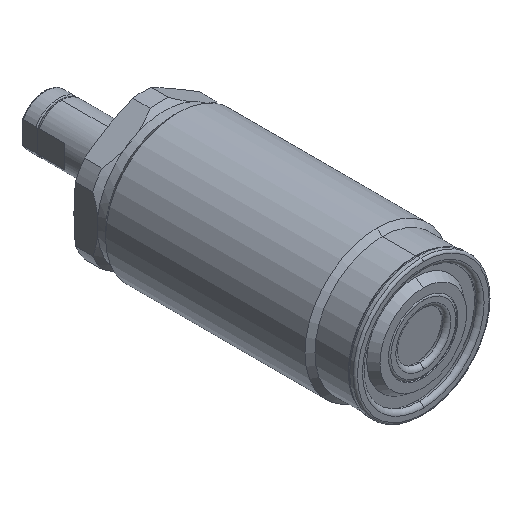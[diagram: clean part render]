
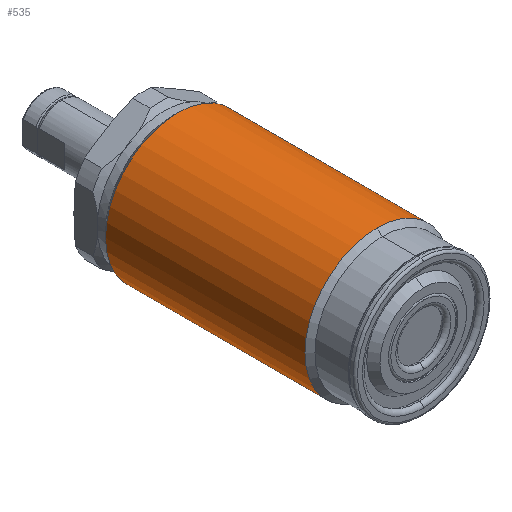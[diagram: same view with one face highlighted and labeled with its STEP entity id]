
A CAD part, isometric view. The second image highlights one B-rep face of the part: STEP entity #535.
In plain terms, the highlighted cylindrical face has radius 13 mm (diameter 26 mm), a full revolution.
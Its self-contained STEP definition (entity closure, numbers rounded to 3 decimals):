
#230=FACE_BOUND('',#819,.T.);
#231=FACE_BOUND('',#820,.T.);
#277=CYLINDRICAL_SURFACE('',#2248,13.);
#358=LINE('',#3629,#432);
#359=LINE('',#3634,#433);
#432=VECTOR('',#2799,1.);
#433=VECTOR('',#2802,1.);
#535=ADVANCED_FACE('',(#230,#231),#277,.T.);
#819=EDGE_LOOP('',(#1218));
#820=EDGE_LOOP('',(#1219,#1220,#1221,#1222,#1223,#1224));
#1218=ORIENTED_EDGE('',*,*,#1781,.T.);
#1219=ORIENTED_EDGE('',*,*,#1782,.T.);
#1220=ORIENTED_EDGE('',*,*,#1782,.F.);
#1221=ORIENTED_EDGE('',*,*,#1783,.T.);
#1222=ORIENTED_EDGE('',*,*,#1784,.T.);
#1223=ORIENTED_EDGE('',*,*,#1784,.F.);
#1224=ORIENTED_EDGE('',*,*,#1785,.T.);
#1548=VERTEX_POINT('',#3628);
#1549=VERTEX_POINT('',#3630);
#1550=VERTEX_POINT('',#3631);
#1551=VERTEX_POINT('',#3633);
#1552=VERTEX_POINT('',#3635);
#1781=EDGE_CURVE('',#1548,#1548,#1994,.T.);
#1782=EDGE_CURVE('',#1549,#1550,#358,.T.);
#1783=EDGE_CURVE('',#1549,#1551,#1995,.T.);
#1784=EDGE_CURVE('',#1551,#1552,#359,.T.);
#1785=EDGE_CURVE('',#1551,#1549,#1996,.T.);
#1994=CIRCLE('',#2245,13.);
#1995=CIRCLE('',#2246,13.);
#1996=CIRCLE('',#2247,13.);
#2245=AXIS2_PLACEMENT_3D('',#3627,#2797,#2798);
#2246=AXIS2_PLACEMENT_3D('',#3632,#2800,#2801);
#2247=AXIS2_PLACEMENT_3D('',#3636,#2803,#2804);
#2248=AXIS2_PLACEMENT_3D('',#3637,#2805,#2806);
#2797=DIRECTION('',(0.,-1.,0.));
#2798=DIRECTION('',(0.,0.,1.));
#2799=DIRECTION('',(0.,1.,0.));
#2800=DIRECTION('',(0.,1.,0.));
#2801=DIRECTION('',(0.,0.,1.));
#2802=DIRECTION('',(0.,1.,0.));
#2803=DIRECTION('',(0.,1.,0.));
#2804=DIRECTION('',(0.,0.,1.));
#2805=DIRECTION('',(0.,1.,0.));
#2806=DIRECTION('',(0.,0.,-1.));
#3627=CARTESIAN_POINT('',(0.,44.2,0.));
#3628=CARTESIAN_POINT('',(0.,44.2,13.));
#3629=CARTESIAN_POINT('',(0.,52.7,13.));
#3630=CARTESIAN_POINT('',(0.,8.3,13.));
#3631=CARTESIAN_POINT('',(0.,42.353,13.));
#3632=CARTESIAN_POINT('',(0.,8.3,0.));
#3633=CARTESIAN_POINT('',(0.,8.3,-13.));
#3634=CARTESIAN_POINT('',(0.,52.7,-13.));
#3635=CARTESIAN_POINT('',(0.,42.353,-13.));
#3636=CARTESIAN_POINT('',(0.,8.3,0.));
#3637=CARTESIAN_POINT('',(0.,52.7,0.));
